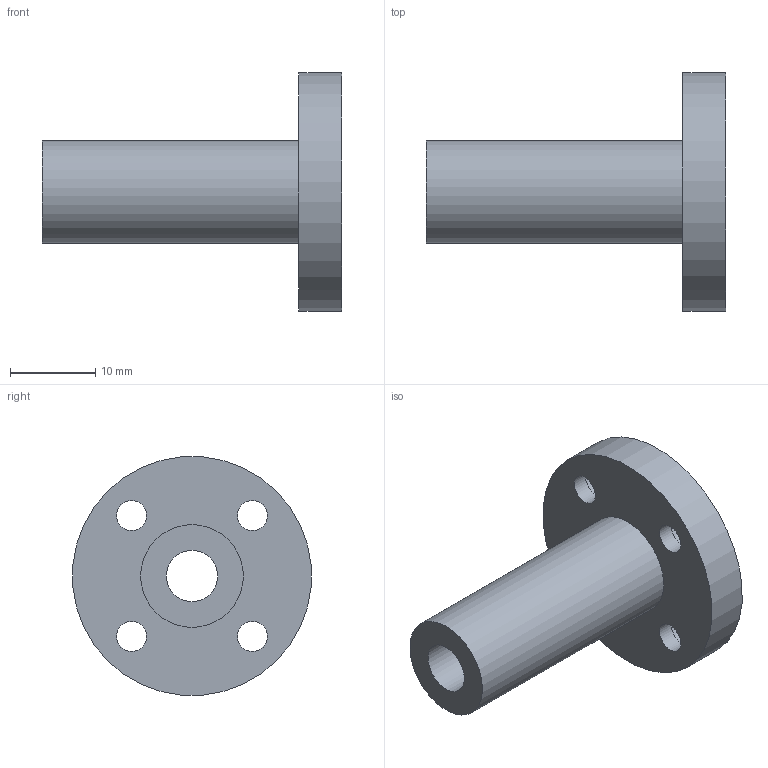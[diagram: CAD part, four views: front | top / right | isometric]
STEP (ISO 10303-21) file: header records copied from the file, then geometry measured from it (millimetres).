
FILE_DESCRIPTION(/* description */ (''),/* implementation_level */ '2;1');
FILE_NAME(/* name */ 'LMF6LUU',/* time_stamp */ '2019-07-03T10:03:29+02:00',/* author */ ('VĂ©gh MĂˇtĂ©'),/* organization */ ('Bearing Kft'),/* preprocessor_version */ 'ST-DEVELOPER v16.7',/* originating_system */ 'DEX',/* authorisation */ $);
FILE_SCHEMA (('AUTOMOTIVE_DESIGN {1 0 10303 214 3 1 1}'));
Length unit declared in the file: millimetre
Products named in the file (1): LMF6LUU
Bounding box: 35 x 27.89 x 27.89 mm (x, y, z)
Volume: 5058 mm3; surface area: 3653.4 mm2
Topology: 1 solids, 1 shells, 323 faces, 814 edges, 544 vertices
Faces by surface type: plane 246, bspline 64, cylinder 13
Full cylindrical faces by diameter (mm): 3.5 x4, 6 x5, 12 x1, 28 x1
Entity records: 11853 total; most frequent: CARTESIAN_POINT 4507, ORIENTED_EDGE 1594, DIRECTION 1215, EDGE_CURVE 797, LINE 643, VECTOR 643, VERTEX_POINT 540, EDGE_LOOP 397
